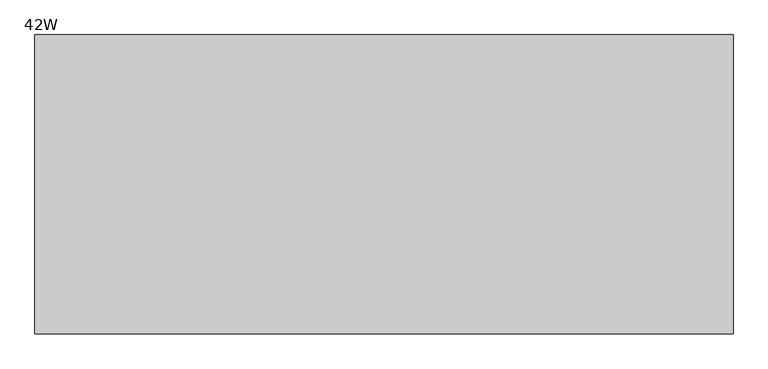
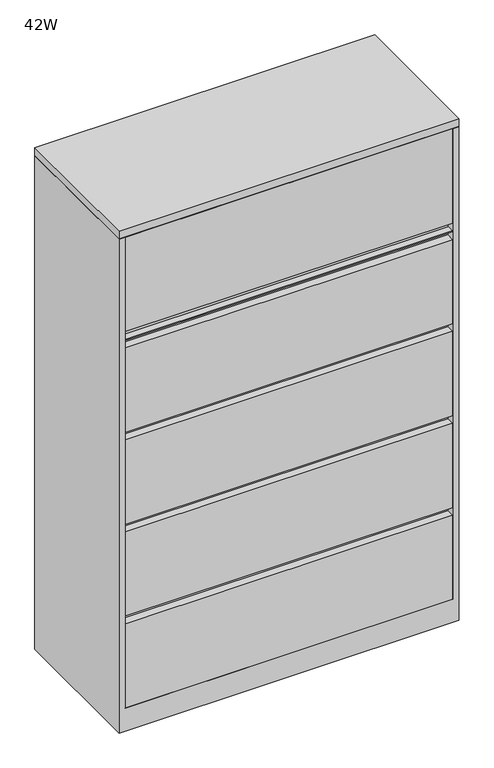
"""IFC4 building model written with IfcOpenShell, lengths in millimetres: furniture geometry, Steelcase - 900 Series - Storage - Lateral File With Drawer - 66H - Flush Steel : 42W."""

from ifc_helpers import new_model, si_unit, frame, origin, place, context, project, spatial, polyline, outline, extrude, faceted_brep, source, transform, mapped, element, save


def furniture_42w_72fbb002(model_context):
    return source(origin(), model_context, "Body", "SolidModel", [
        extrude(outline(polyline([(1066.8, 0.0), (1066.8, -457.2), (0.0, -457.2), (0.0, 0.0), (1066.8, 0.0)])), frame((0.0, 0.0, 1638.2999516), z_axis=(0.0, 0.0, 1.0), x_axis=(1.0, 0.0, 0.0)), (0.0, 0.0, 1.0), 25.4),
        faceted_brep([(1047.4960184, -25.2721219, 1636.776), (1047.4960184, -457.2, 1636.776), (1066.8, -457.2, 1636.776), (1066.8, 0.0, 1636.776), (0.0, 0.0, 1636.776), (0.0, -457.2, 1636.776), (19.3039998, -457.2, 1636.776), (19.3039998, -25.2721219, 1636.776), (0.0, -457.2, 0.0), (0.0, 0.0, 0.0), (1066.8, 0.0, 0.0), (1066.8, -457.2, 0.0), (1047.4960184, -25.2721219, 381.0), (1047.4960184, -431.800255, 381.0), (1047.4960184, -431.800255, 355.6), (1047.4960184, -25.2721219, 355.6), (1047.4960184, -25.2721219, 76.2), (1047.4960184, -457.2, 76.2), (19.3039998, -457.2, 76.2), (19.3039998, -25.2721219, 76.2), (19.3039998, -25.2721219, 355.6), (19.3039998, -431.800255, 355.6), (19.3039998, -431.800255, 381.0), (19.3039998, -25.2721219, 381.0)], [[[0, 1, 2, 3, 4, 5, 6, 7]], [[8, 9, 10, 11]], [[1, 0, 12, 13, 14, 15, 16, 17]], [[2, 1, 17, 18, 6, 5, 8, 11]], [[3, 2, 11, 10]], [[4, 3, 10, 9]], [[5, 4, 9, 8]], [[7, 6, 18, 19, 20, 21, 22, 23]], [[0, 7, 23, 12]], [[16, 15, 20, 19]], [[18, 17, 16, 19]], [[22, 13, 12, 23]], [[13, 22, 21, 14]], [[14, 21, 20, 15]]]),
        extrude(outline(polyline([(1045.9722015, -457.2), (20.8289612, -457.2), (20.8289612, -434.9741219), (1045.9722015, -434.9741219), (1045.9722015, -457.2)])), frame((0.0, 0.0, 1295.4), z_axis=(0.0, 0.0, 1.0), x_axis=(1.0, 0.0, 0.0)), (0.0, 0.0, 1.0), 3.175),
        extrude(outline(polyline([(1045.9722015, -457.2), (20.8289612, -457.2), (20.8289612, -431.800255), (1045.9722015, -431.800255), (1045.9722015, -457.2)])), frame((0.0, 0.0, 1323.975), z_axis=(0.0, 0.0, 1.0), x_axis=(1.0, 0.0, 0.0)), (0.0, 0.0, 1.0), 312.801),
        extrude(outline(polyline([(1047.4960184, -25.2721219), (1047.4960184, -431.800255), (19.3039998, -431.800255), (19.3039998, -25.2721219), (1047.4960184, -25.2721219)])), frame((0.0, 0.0, 660.4), z_axis=(0.0, 0.0, 1.0), x_axis=(1.0, 0.0, 0.0)), (0.0, 0.0, 1.0), 25.4),
        extrude(outline(polyline([(1045.9722015, -457.2), (20.8289612, -457.2), (20.8289612, -431.800255), (1045.9722015, -431.800255), (1045.9722015, -457.2)])), frame((0.0, 0.0, 990.6), z_axis=(0.0, 0.0, 1.0), x_axis=(1.0, 0.0, 0.0)), (0.0, 0.0, 1.0), 279.4),
        extrude(outline(polyline([(1045.9722015, -457.2), (20.8289612, -457.2), (20.8289612, -431.800255), (1045.9722015, -431.800255), (1045.9722015, -457.2)])), frame((0.0, 0.0, 685.8), z_axis=(0.0, 0.0, 1.0), x_axis=(1.0, 0.0, 0.0)), (0.0, 0.0, 1.0), 279.4),
        extrude(outline(polyline([(1047.4960184, -25.2721219), (1047.4960184, -431.800255), (19.3039998, -431.800255), (19.3039998, -25.2721219), (1047.4960184, -25.2721219)])), frame((0.0, 0.0, 1270.0), z_axis=(0.0, 0.0, 1.0), x_axis=(1.0, 0.0, 0.0)), (0.0, 0.0, 1.0), 53.975),
        extrude(outline(polyline([(1047.4960184, -25.2721219), (1047.4960184, -431.800255), (19.3039998, -431.800255), (19.3039998, -25.2721219), (1047.4960184, -25.2721219)])), frame((0.0, 0.0, 965.2), z_axis=(0.0, 0.0, 1.0), x_axis=(1.0, 0.0, 0.0)), (0.0, 0.0, 1.0), 25.4),
        extrude(outline(polyline([(1047.4960184, -25.2721219), (1047.4960184, -415.9241219), (20.8289612, -415.9241219), (20.8289612, -25.2721219), (1047.4960184, -25.2721219)])), frame((0.0, 0.0, 1636.776), z_axis=(0.0, 0.0, 1.0), x_axis=(1.0, 0.0, 0.0)), (0.0, 0.0, 1.0), 1.5239516),
        extrude(outline(polyline([(1045.9722015, -457.2), (20.8289612, -457.2), (20.8289612, -431.800255), (1045.9722015, -431.800255), (1045.9722015, -457.2)])), frame((0.0, 0.0, 76.2), z_axis=(0.0, 0.0, 1.0), x_axis=(1.0, 0.0, 0.0)), (0.0, 0.0, 1.0), 279.4),
        extrude(outline(polyline([(1045.9722015, -457.2), (20.8289612, -457.2), (20.8289612, -431.800255), (1045.9722015, -431.800255), (1045.9722015, -457.2)])), frame((0.0, 0.0, 381.0), z_axis=(0.0, 0.0, 1.0), x_axis=(1.0, 0.0, 0.0)), (0.0, 0.0, 1.0), 279.4),
    ])


if __name__ == "__main__":
    model = new_model("IFC4")
    model_context = context("Model", 3, world=origin())
    ifc_project = project(units=[si_unit("LENGTHUNIT", "METRE", prefix="MILLI")], contexts=[model_context])
    site = spatial("IfcSite", under=ifc_project)
    building = spatial("IfcBuilding", under=site)
    placement = place(None, origin())
    furniture_42w_shape = furniture_42w_72fbb002(model_context)
    element("IfcFurniture", 1, ObjectType="Steelcase - 900 Series - Storage - Lateral File With Drawer - 66H - Flush Steel : 42W", at=placement, inside=building, context=model_context, shape_type="MappedRepresentation", body=[
        mapped(furniture_42w_shape, transform((0.0, 0.0, 0.0), x_axis=(1.0, 0.0, 0.0), y_axis=(0.0, 1.0, 0.0), z_axis=(0.0, 0.0, 1.0))),
    ])
    save(model, "model.ifc")
